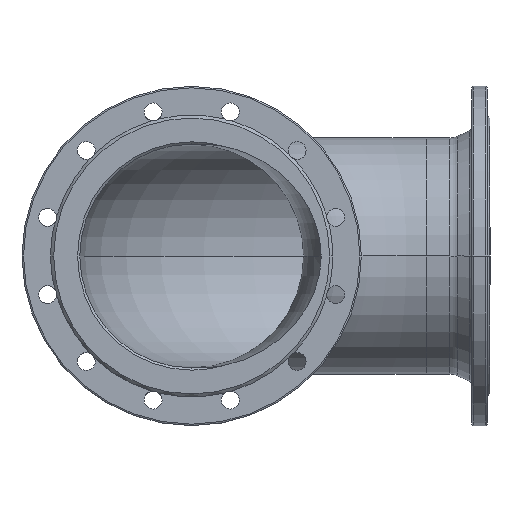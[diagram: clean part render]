
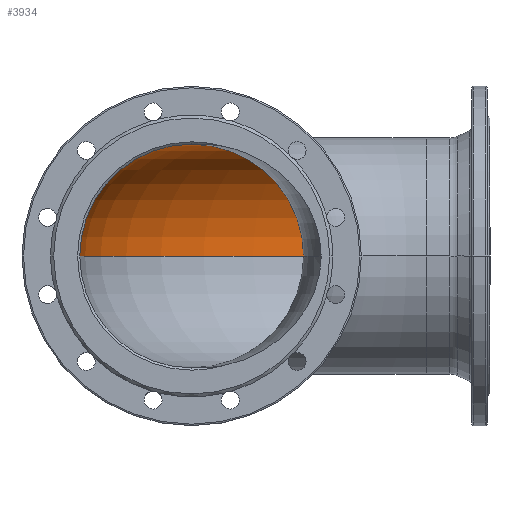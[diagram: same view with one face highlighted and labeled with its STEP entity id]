
A CAD part, left-side view. The second image highlights one B-rep face of the part: STEP entity #3934.
In plain terms, the highlighted toroidal (fillet/blend) face has major radius 315 mm and minor radius 150 mm.
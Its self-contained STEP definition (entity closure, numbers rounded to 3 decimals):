
#31 = CARTESIAN_POINT ( 'NONE',  ( -315., -315., 0. ) ) ;
#163 = CARTESIAN_POINT ( 'NONE',  ( -315., -150., 0. ) ) ;
#300 = VERTEX_POINT ( 'NONE', #3197 ) ;
#582 = DIRECTION ( 'NONE',  ( 0., -1., 0. ) ) ;
#651 = DIRECTION ( 'NONE',  ( -1., 0., 0. ) ) ;
#663 = ORIENTED_EDGE ( 'NONE', *, *, #1546, .T. ) ;
#776 = AXIS2_PLACEMENT_3D ( 'NONE', #5853, #1309, #3144 ) ;
#886 = DIRECTION ( 'NONE',  ( 1., 0., 0. ) ) ;
#1096 = AXIS2_PLACEMENT_3D ( 'NONE', #3901, #5280, #5340 ) ;
#1296 = AXIS2_PLACEMENT_3D ( 'NONE', #2813, #2782, #3297 ) ;
#1309 = DIRECTION ( 'NONE',  ( 0., 1., 0. ) ) ;
#1333 = DIRECTION ( 'NONE',  ( 0., 1., 0. ) ) ;
#1412 = DIRECTION ( 'NONE',  ( 0., 0., -1. ) ) ;
#1466 = CIRCLE ( 'NONE', #1096, 465. ) ;
#1546 = EDGE_CURVE ( 'Defeatured_0_59+Defeatured_0_69+Defeatured_0_0+Defeatured_0_0', #2118, #1718, #2982, .T. ) ;
#1575 = AXIS2_PLACEMENT_3D ( 'NONE', #2929, #4749, #651 ) ;
#1718 = VERTEX_POINT ( 'NONE', #4320 ) ;
#1748 = CARTESIAN_POINT ( 'NONE',  ( -315., 0., 0. ) ) ;
#1852 = ORIENTED_EDGE ( 'NONE', *, *, #3482, .F. ) ;
#1858 = CARTESIAN_POINT ( 'NONE',  ( 0., -315., 0. ) ) ;
#2118 = VERTEX_POINT ( 'NONE', #3419 ) ;
#2610 = ORIENTED_EDGE ( 'NONE', *, *, #3870, .T. ) ;
#2763 = FACE_OUTER_BOUND ( 'NONE', #5657, .T. ) ;
#2782 = DIRECTION ( 'NONE',  ( 1., 0., 0. ) ) ;
#2813 = CARTESIAN_POINT ( 'NONE',  ( -315., 0., 0. ) ) ;
#2888 = ORIENTED_EDGE ( 'NONE', *, *, #5208, .F. ) ;
#2929 = CARTESIAN_POINT ( 'NONE',  ( -315., -315., 0. ) ) ;
#2982 = CIRCLE ( 'NONE', #5269, 150. ) ;
#3144 = DIRECTION ( 'NONE',  ( -1., 0., 0. ) ) ;
#3197 = CARTESIAN_POINT ( 'NONE',  ( 0., -315., 150. ) ) ;
#3234 = VERTEX_POINT ( 'NONE', #4814 ) ;
#3249 = DIRECTION ( 'NONE',  ( -1., 0., 0. ) ) ;
#3297 = DIRECTION ( 'NONE',  ( 0., 0., 1. ) ) ;
#3419 = CARTESIAN_POINT ( 'NONE',  ( -315., 0., 150. ) ) ;
#3482 = EDGE_CURVE ( 'Defeatured_0_67+Defeatured_0_59+Defeatured_0_1+Defeatured_0_1', #300, #4255, #5827, .T. ) ;
#3515 = AXIS2_PLACEMENT_3D ( 'NONE', #1858, #1333, #886 ) ;
#3870 = EDGE_CURVE ( 'NONE', #1718, #4255, #1466, .T. ) ;
#3901 = CARTESIAN_POINT ( 'NONE',  ( -315., -315., 0. ) ) ;
#3934 = ADVANCED_FACE ( 'Defeatured_0_59', ( #2763 ), #4825, .F. ) ;
#4157 = CIRCLE ( 'NONE', #1575, 165. ) ;
#4255 = VERTEX_POINT ( 'NONE', #4943 ) ;
#4320 = CARTESIAN_POINT ( 'NONE',  ( -315., 150., 0. ) ) ;
#4460 = CIRCLE ( 'NONE', #3515, 150. ) ;
#4515 = VERTEX_POINT ( 'NONE', #163 ) ;
#4531 = EDGE_CURVE ( 'NONE', #4515, #3234, #4157, .T. ) ;
#4749 = DIRECTION ( 'NONE',  ( 0., 0., -1. ) ) ;
#4808 = ORIENTED_EDGE ( 'NONE', *, *, #4531, .F. ) ;
#4814 = CARTESIAN_POINT ( 'NONE',  ( -150., -315., 0. ) ) ;
#4825 = TOROIDAL_SURFACE ( 'NONE', #5877, 315., 150. ) ;
#4943 = CARTESIAN_POINT ( 'NONE',  ( 150., -315., 0. ) ) ;
#4958 = DIRECTION ( 'NONE',  ( -1., 0., 0. ) ) ;
#5055 = ORIENTED_EDGE ( 'NONE', *, *, #5721, .F. ) ;
#5208 = EDGE_CURVE ( 'Defeatured_0_1+Defeatured_0_59+Defeatured_0_67+Defeatured_0_67', #3234, #300, #4460, .T. ) ;
#5269 = AXIS2_PLACEMENT_3D ( 'NONE', #1748, #4958, #582 ) ;
#5280 = DIRECTION ( 'NONE',  ( 0., 0., -1. ) ) ;
#5340 = DIRECTION ( 'NONE',  ( -1., 0., 0. ) ) ;
#5657 = EDGE_LOOP ( 'NONE', ( #663, #2610, #1852, #2888, #4808, #5055 ) ) ;
#5690 = CIRCLE ( 'NONE', #1296, 150. ) ;
#5721 = EDGE_CURVE ( 'Defeatured_0_0+Defeatured_0_59+Defeatured_0_69+Defeatured_0_69', #2118, #4515, #5690, .T. ) ;
#5827 = CIRCLE ( 'NONE', #776, 150. ) ;
#5853 = CARTESIAN_POINT ( 'NONE',  ( 0., -315., 0. ) ) ;
#5877 = AXIS2_PLACEMENT_3D ( 'NONE', #31, #1412, #3249 ) ;
